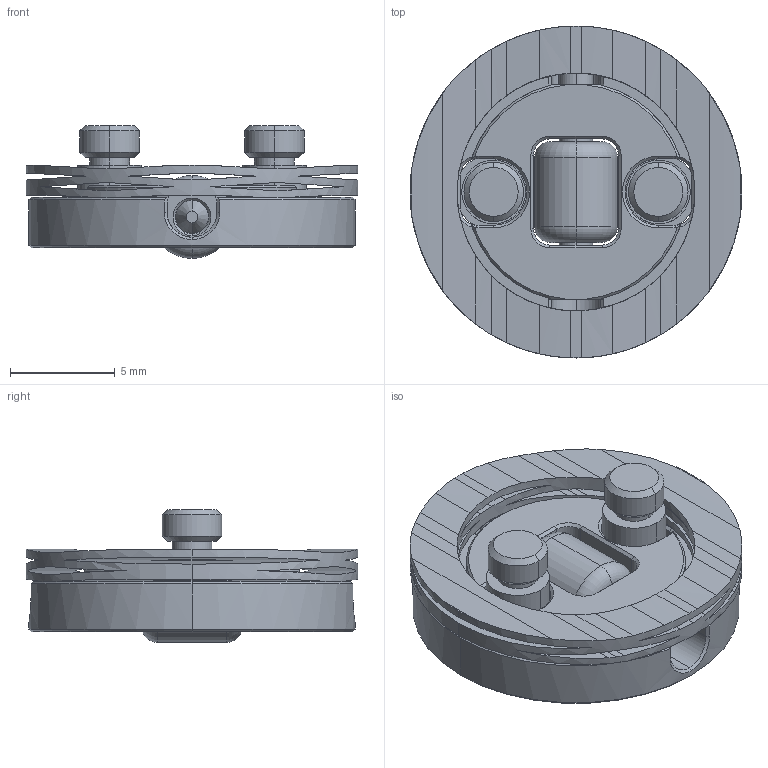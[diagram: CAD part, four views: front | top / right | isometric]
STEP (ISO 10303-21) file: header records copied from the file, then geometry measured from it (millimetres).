
FILE_DESCRIPTION (( 'STEP AP203' ), '1' );
FILE_NAME ('SRTM-04.STEP', '2012-09-12T23:21:00', ( '' ), ( '' ), 'SwSTEP 2.0', 'SolidWorks 2010', '' );
FILE_SCHEMA (( 'CONFIG_CONTROL_DESIGN' ));
Length unit declared in the file: millimetre
Products named in the file (6): SRTM-04; SRTM-04_Body; SRTM-04_WAVESPRING; SRTM-04_AXLE; SRTM-04_ROLLER; SRTM-04_SHSB
Assembly tree (6 placements, depth 2):
  SRTM-04
    SRTM-04_SHSB  x2
    SRTM-04_Body
    SRTM-04_WAVESPRING
    SRTM-04_AXLE
    SRTM-04_ROLLER
Bounding box: 15.88 x 15.88 x 6.35 mm (x, y, z)
Volume: 575.8 mm3; surface area: 1484.2 mm2
Topology: 6 solids, 6 shells, 293 faces, 762 edges, 480 vertices
Faces by surface type: plane 115, cylinder 103, cone 65, torus 6, bspline 4
Entity records: 9096 total; most frequent: CARTESIAN_POINT 2257, ORIENTED_EDGE 1396, DIRECTION 1190, EDGE_CURVE 698, AXIS2_PLACEMENT_3D 441, VERTEX_POINT 440, LINE 308, VECTOR 308
